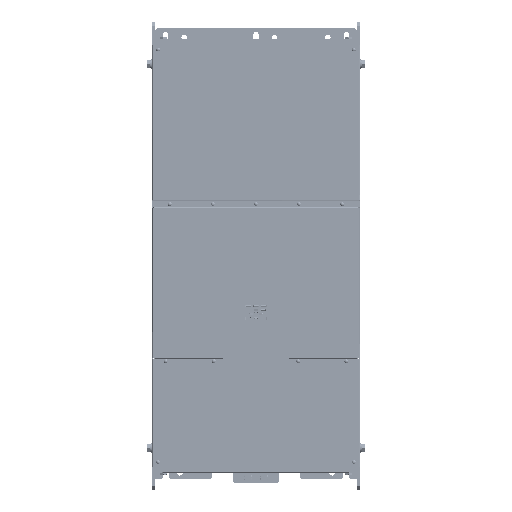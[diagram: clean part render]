
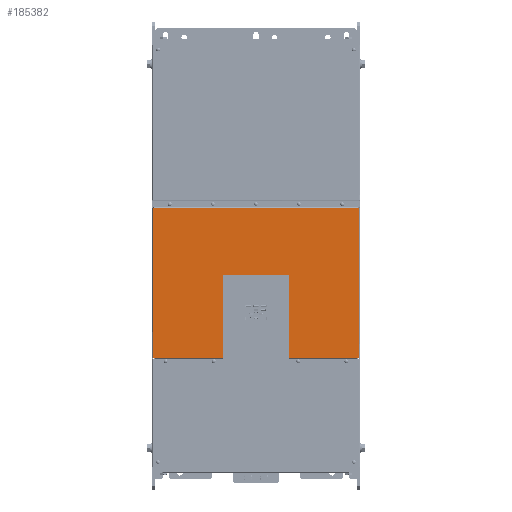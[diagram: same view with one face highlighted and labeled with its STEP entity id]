
A CAD part, top view. The second image highlights one B-rep face of the part: STEP entity #185382.
In plain terms, the highlighted planar face has unit normal (0, 0, 1).
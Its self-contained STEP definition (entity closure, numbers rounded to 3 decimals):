
#22071=DIRECTION('',(0.,-1.,0.));
#22072=VECTOR('',#22071,0.037);
#22073=CARTESIAN_POINT('',(-251.4,-254.4,480.));
#22074=LINE('',#22073,#22072);
#22075=DIRECTION('',(0.,1.,0.));
#22076=VECTOR('',#22075,207.737);
#22077=CARTESIAN_POINT('',(81.5,-254.437,480.));
#22078=LINE('',#22077,#22076);
#22079=DIRECTION('',(-1.,0.,0.));
#22080=VECTOR('',#22079,163.);
#22081=CARTESIAN_POINT('',(81.5,-46.7,480.));
#22082=LINE('',#22081,#22080);
#22083=DIRECTION('',(0.,-1.,0.));
#22084=VECTOR('',#22083,207.737);
#22085=CARTESIAN_POINT('',(-81.5,-46.7,480.));
#22086=LINE('',#22085,#22084);
#22087=DIRECTION('',(-1.,0.,0.));
#22088=VECTOR('',#22087,5.);
#22089=CARTESIAN_POINT('',(-251.4,-254.4,480.));
#22090=LINE('',#22089,#22088);
#22091=CARTESIAN_POINT('',(-257.374,120.374,480.));
#22092=DIRECTION('',(0.,0.,1.));
#22093=DIRECTION('',(0.487,-0.874,0.));
#22094=AXIS2_PLACEMENT_3D('',#22091,#22092,#22093);
#22096=CARTESIAN_POINT('',(-257.374,120.374,480.));
#22097=DIRECTION('',(0.,0.,1.));
#22098=DIRECTION('',(0.707,-0.707,0.));
#22099=AXIS2_PLACEMENT_3D('',#22096,#22097,#22098);
#22101=CARTESIAN_POINT('',(257.374,120.374,480.));
#22102=DIRECTION('',(0.,0.,1.));
#22103=DIRECTION('',(-0.874,-0.487,0.));
#22104=AXIS2_PLACEMENT_3D('',#22101,#22102,#22103);
#22106=CARTESIAN_POINT('',(257.374,120.374,480.));
#22107=DIRECTION('',(0.,0.,1.));
#22108=DIRECTION('',(-0.707,-0.707,0.));
#22109=AXIS2_PLACEMENT_3D('',#22106,#22107,#22108);
#22111=DIRECTION('',(0.,-1.,0.));
#22112=VECTOR('',#22111,0.037);
#22113=CARTESIAN_POINT('',(251.4,-254.4,480.));
#22114=LINE('',#22113,#22112);
#22657=DIRECTION('',(1.,0.,0.));
#22658=VECTOR('',#22657,169.9);
#22659=CARTESIAN_POINT('',(81.5,-254.437,480.));
#22660=LINE('',#22659,#22658);
#22707=DIRECTION('',(1.,0.,0.));
#22708=VECTOR('',#22707,5.);
#22709=CARTESIAN_POINT('',(251.4,-254.4,480.));
#22710=LINE('',#22709,#22708);
#54096=DIRECTION('',(0.,1.,0.));
#54097=VECTOR('',#54096,373.027);
#54098=CARTESIAN_POINT('',(256.4,-254.4,480.));
#54099=LINE('',#54098,#54097);
#54152=DIRECTION('',(-1.,0.,0.));
#54153=VECTOR('',#54152,511.253);
#54154=CARTESIAN_POINT('',(255.627,119.4,480.));
#54155=LINE('',#54154,#54153);
#54212=DIRECTION('',(0.,-1.,0.));
#54213=VECTOR('',#54212,373.027);
#54214=CARTESIAN_POINT('',(-256.4,118.627,480.));
#54215=LINE('',#54214,#54213);
#55417=DIRECTION('',(1.,0.,0.));
#55418=VECTOR('',#55417,169.9);
#55419=CARTESIAN_POINT('',(-251.4,-254.437,480.));
#55420=LINE('',#55419,#55418);
#133157=CARTESIAN_POINT('',(-256.4,-254.4,480.));
#133158=VERTEX_POINT('',#133157);
#133159=CARTESIAN_POINT('',(-251.4,-254.4,480.));
#133160=VERTEX_POINT('',#133159);
#133173=CARTESIAN_POINT('',(-251.4,-254.437,480.));
#133174=VERTEX_POINT('',#133173);
#133175=CARTESIAN_POINT('',(81.5,-254.437,480.));
#133176=CARTESIAN_POINT('',(81.5,-46.7,480.));
#133177=VERTEX_POINT('',#133175);
#133178=VERTEX_POINT('',#133176);
#133179=CARTESIAN_POINT('',(-81.5,-46.7,480.));
#133180=VERTEX_POINT('',#133179);
#133181=CARTESIAN_POINT('',(-81.5,-254.437,480.));
#133182=VERTEX_POINT('',#133181);
#133183=CARTESIAN_POINT('',(-256.4,118.627,480.));
#133184=VERTEX_POINT('',#133183);
#133185=CARTESIAN_POINT('',(-255.959,118.959,480.));
#133186=VERTEX_POINT('',#133185);
#133187=CARTESIAN_POINT('',(-255.627,119.4,480.));
#133188=VERTEX_POINT('',#133187);
#133189=CARTESIAN_POINT('',(255.627,119.4,480.));
#133190=VERTEX_POINT('',#133189);
#133191=CARTESIAN_POINT('',(255.959,118.959,480.));
#133192=VERTEX_POINT('',#133191);
#133193=CARTESIAN_POINT('',(256.4,118.627,480.));
#133194=VERTEX_POINT('',#133193);
#133195=CARTESIAN_POINT('',(256.4,-254.4,480.));
#133196=VERTEX_POINT('',#133195);
#133197=CARTESIAN_POINT('',(251.4,-254.4,480.));
#133198=VERTEX_POINT('',#133197);
#133199=CARTESIAN_POINT('',(251.4,-254.437,480.));
#133200=VERTEX_POINT('',#133199);
#185345=CARTESIAN_POINT('',(0.,-165.,480.));
#185346=DIRECTION('',(0.,0.,1.));
#185347=DIRECTION('',(1.,0.,0.));
#185348=AXIS2_PLACEMENT_3D('',#185345,#185346,#185347);
#185349=PLANE('',#185348);
#185351=ORIENTED_EDGE('',*,*,#185350,.T.);
#185353=ORIENTED_EDGE('',*,*,#185352,.T.);
#185355=ORIENTED_EDGE('',*,*,#185354,.T.);
#185357=ORIENTED_EDGE('',*,*,#185356,.F.);
#185358=ORIENTED_EDGE('',*,*,#185337,.F.);
#185359=ORIENTED_EDGE('',*,*,#184545,.T.);
#185361=ORIENTED_EDGE('',*,*,#185360,.F.);
#185363=ORIENTED_EDGE('',*,*,#185362,.T.);
#185365=ORIENTED_EDGE('',*,*,#185364,.T.);
#185367=ORIENTED_EDGE('',*,*,#185366,.F.);
#185369=ORIENTED_EDGE('',*,*,#185368,.T.);
#185371=ORIENTED_EDGE('',*,*,#185370,.T.);
#185373=ORIENTED_EDGE('',*,*,#185372,.F.);
#185375=ORIENTED_EDGE('',*,*,#185374,.F.);
#185377=ORIENTED_EDGE('',*,*,#185376,.T.);
#185379=ORIENTED_EDGE('',*,*,#185378,.F.);
#185380=EDGE_LOOP('',(#185351,#185353,#185355,#185357,#185358,#185359,#185361,
#185363,#185365,#185367,#185369,#185371,#185373,#185375,#185377,#185379));
#185381=FACE_OUTER_BOUND('',#185380,.F.);
#22095=CIRCLE('',#22094,2.);
#22100=CIRCLE('',#22099,2.);
#22105=CIRCLE('',#22104,2.);
#22110=CIRCLE('',#22109,2.);
#184545=EDGE_CURVE('',#133160,#133158,#22090,.T.);
#185337=EDGE_CURVE('',#133160,#133174,#22074,.T.);
#185350=EDGE_CURVE('',#133177,#133178,#22078,.T.);
#185352=EDGE_CURVE('',#133178,#133180,#22082,.T.);
#185354=EDGE_CURVE('',#133180,#133182,#22086,.T.);
#185356=EDGE_CURVE('',#133174,#133182,#55420,.T.);
#185360=EDGE_CURVE('',#133184,#133158,#54215,.T.);
#185362=EDGE_CURVE('',#133184,#133186,#22095,.T.);
#185364=EDGE_CURVE('',#133186,#133188,#22100,.T.);
#185366=EDGE_CURVE('',#133190,#133188,#54155,.T.);
#185368=EDGE_CURVE('',#133190,#133192,#22105,.T.);
#185370=EDGE_CURVE('',#133192,#133194,#22110,.T.);
#185372=EDGE_CURVE('',#133196,#133194,#54099,.T.);
#185374=EDGE_CURVE('',#133198,#133196,#22710,.T.);
#185376=EDGE_CURVE('',#133198,#133200,#22114,.T.);
#185378=EDGE_CURVE('',#133177,#133200,#22660,.T.);
#185382=ADVANCED_FACE('',(#185381),#185349,.T.);
